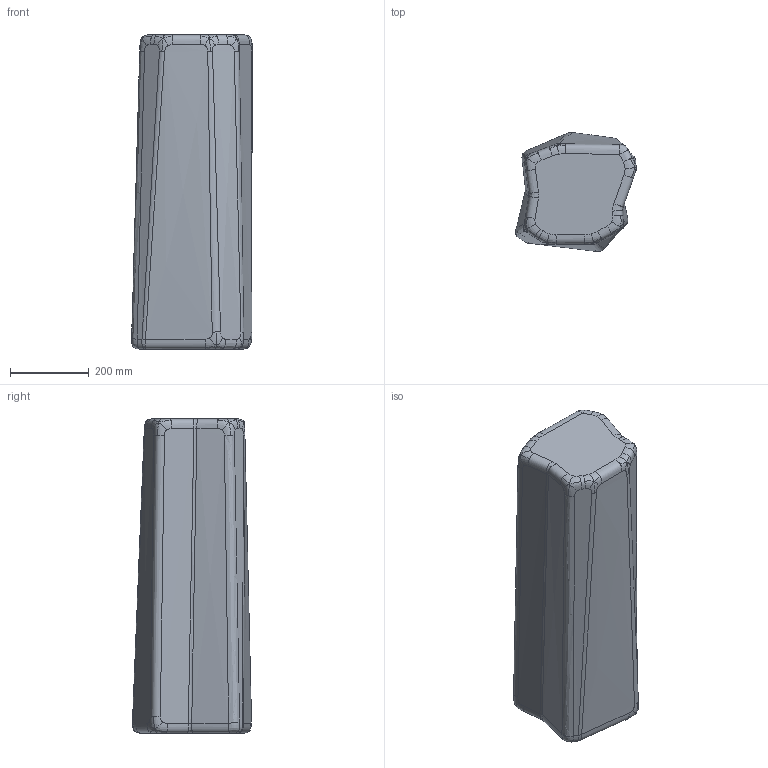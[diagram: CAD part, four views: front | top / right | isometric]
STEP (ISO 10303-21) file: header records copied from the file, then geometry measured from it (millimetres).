
FILE_DESCRIPTION(/* description */ (''),/* implementation_level */ '2;1');
FILE_NAME(/* name */ 'Staffa pedestal_3D',/* time_stamp */ '2023-09-20T08:09:37+02:00',/* author */ (''),/* organization */ (''),/* preprocessor_version */ 'ST-DEVELOPER v16.5',/* originating_system */ 'Rhino 7.33',/* authorisation */ '');
FILE_SCHEMA (('CONFIG_CONTROL_DESIGN'));
Length unit declared in the file: millimetre
Products named in the file (1): Document
Bounding box: 307.68 x 302.8 x 800.02 mm (x, y, z)
Volume: 53925028.8 mm3; surface area: 906724.5 mm2
Topology: 1 solids, 1 shells, 127 faces, 322 edges, 194 vertices
Faces by surface type: bspline 125, plane 2
Entity records: 14469 total; most frequent: CARTESIAN_POINT 12395, ORIENTED_EDGE 638, EDGE_CURVE 319, B_SPLINE_CURVE_WITH_KNOTS 319, VERTEX_POINT 194, ADVANCED_FACE 127, FACE_OUTER_BOUND 127, EDGE_LOOP 127
